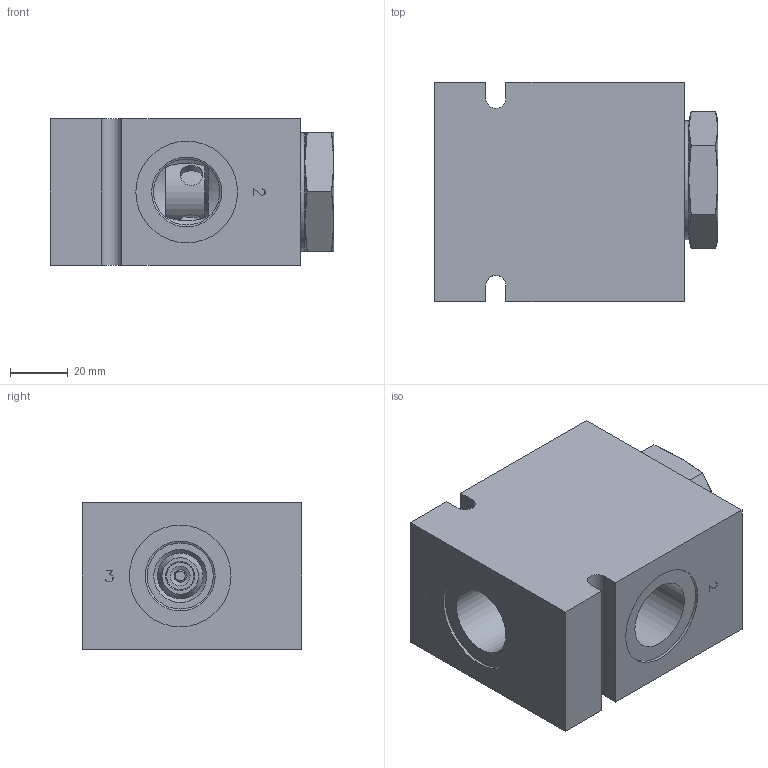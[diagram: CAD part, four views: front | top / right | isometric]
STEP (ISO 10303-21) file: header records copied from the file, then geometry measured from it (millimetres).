
FILE_DESCRIPTION( ( 'Unknown' ), '1' );
FILE_NAME( 'G:/Graphic Design/Graphic Design 2/Data Sheets/PRESSURE CONTROLS/2_STEP/Pressure Compensated Regulator Valves/D-SLPCA00-D3.stp', 'Unknown', ( 'Unknown' ), ( 'Unknown' ), 'PSStep 16.0.42', 'Unknown', ' ' );
FILE_SCHEMA( ( 'AUTOMOTIVE_DESIGN { 1 0 10303 214 1 1 1 1 }' ) );
Length unit declared in the file: millimetre
Products named in the file (10): SLPCA00; SLPCA00-3D Full2; SLPCA00-3D Full3; SLPCA00-3D Full4; SLPCA00-3D Full5; SLPCA00-3D Full6; SLPCA00-3D Full7; SLPCA00-3D Full1; Assem1; B-DSLD3
Assembly tree (9 placements, depth 3):
  Assem1
    B-DSLD3
    SLPCA00
      SLPCA00-3D Full2
      SLPCA00-3D Full3
      SLPCA00-3D Full4
      SLPCA00-3D Full5
      SLPCA00-3D Full6
      SLPCA00-3D Full7
      SLPCA00-3D Full1
Bounding box: 98.7 x 76.2 x 50.8 mm (x, y, z)
Surface area: 57095.4 mm2 (no closed solid volume)
Topology: 0 solids, 223 shells, 223 faces, 961 edges, 880 vertices
Faces by surface type: plane 120, cylinder 53, cone 45, torus 5
Full cylindrical faces by diameter (mm): 6.3 x1, 7.925 x4, 9.525 x2, 10.109 x1, 11.5 x2, 15.875 x1, 20.93 x1, 20.98 x1, 22.22 x1, 23 x2, 24.105 x1, 24.13 x1, 24.155 x2, 24.3 x4, 25.197 x1, 25.349 x2, 25.4 x2, 27.051 x1, 28.372 x2, 28.524 x2, 28.6 x2, 28.651 x1, 30.328 x1, 31.806 x2, 35.33 x2, 41.275 x1, 48.514 x1
Entity records: 12064 total; most frequent: CARTESIAN_POINT 3741, DIRECTION 1198, VERTEX_POINT 837, ORIENTED_EDGE 834, EDGE_CURVE 834, AXIS2_PLACEMENT_3D 482, B_SPLINE_CURVE_WITH_KNOTS 352, FACE_BOUND 337
